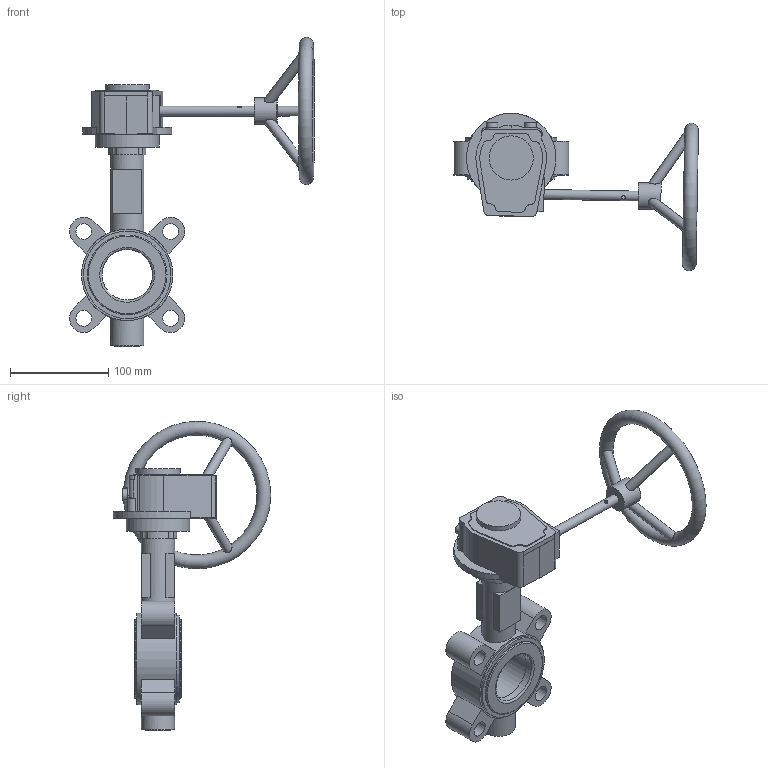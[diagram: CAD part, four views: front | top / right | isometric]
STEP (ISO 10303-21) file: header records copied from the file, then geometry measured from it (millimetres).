
FILE_DESCRIPTION (( 'STEP AP203' ), '1' );
FILE_NAME ('2502 LT型中线衬胶带销 手动头蝶阀 DN50 PN16 CD0309115.STEP', '2026-03-25T00:12:18', ( '' ), ( '' ), 'SwSTEP 2.0', 'SolidWorks 2018', '' );
FILE_SCHEMA (( 'CONFIG_CONTROL_DESIGN' ));
Length unit declared in the file: millimetre
Products named in the file (5): GALA-D50-01LC-00; 2502 LT型中线衬胶带销 手动头蝶阀 DN50 PN16 CD0309115; GALA-D50-04AZC-00 概极傍蝶; G12L忒雄芛 潠趙; DIN908 塞堵M20×1.5
Assembly tree (4 placements, depth 2):
  2502 LT型中线衬胶带销 手动头蝶阀 DN50 PN16 CD0309115
    GALA-D50-04AZC-00 概极傍蝶
    DIN908 塞堵M20×1.5
    GALA-D50-01LC-00
    G12L忒雄芛 潠趙
Bounding box: 249.13 x 160.17 x 314.58 mm (x, y, z)
Volume: 818149.7 mm3; surface area: 166911.3 mm2
Topology: 5 solids, 10 shells, 256 faces, 634 edges, 416 vertices
Faces by surface type: cylinder 121, plane 111, torus 9, cone 7, bspline 6, sphere 2
Full cylindrical faces by diameter (mm): 4 x1, 7 x4, 10 x5, 12 x2, 16 x4, 20 x1, 25 x1, 27 x2, 31.6 x1, 34 x3, 45 x1, 51.362 x1, 61 x2, 65 x1, 81 x4, 89 x1, 91 x1, 93 x1
Entity records: 9113 total; most frequent: CARTESIAN_POINT 2888, DIRECTION 1162, ORIENTED_EDGE 1138, EDGE_CURVE 569, AXIS2_PLACEMENT_3D 455, VERTEX_POINT 403, EDGE_LOOP 354, FACE_OUTER_BOUND 299
